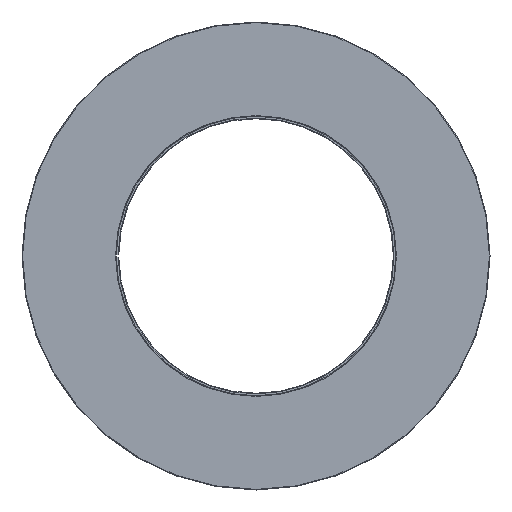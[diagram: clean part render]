
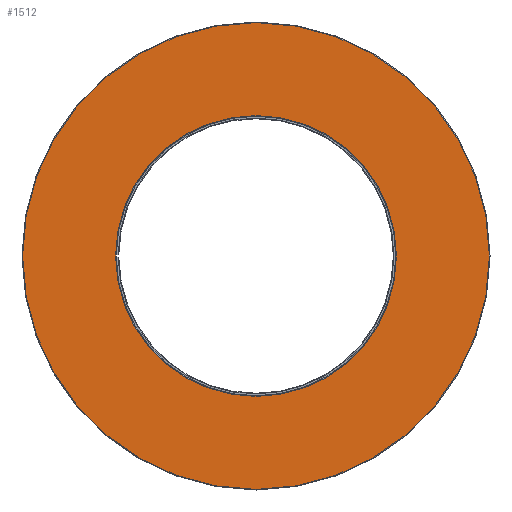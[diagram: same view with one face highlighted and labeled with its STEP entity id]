
A CAD part, left-side view. The second image highlights one B-rep face of the part: STEP entity #1512.
In plain terms, the highlighted planar face has unit normal (-1, 0, 0).
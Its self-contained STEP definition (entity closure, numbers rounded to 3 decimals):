
#1512 = ADVANCED_FACE( '', ( #3846, #3847 ), #3848, .T. );
#3846 = FACE_OUTER_BOUND( '', #7660, .T. );
#3847 = FACE_BOUND( '', #7661, .T. );
#3848 = PLANE( '', #7662 );
#7660 = EDGE_LOOP( '', ( #12437 ) );
#7661 = EDGE_LOOP( '', ( #12438 ) );
#7662 = AXIS2_PLACEMENT_3D( '', #12439, #12440, #12441 );
#12437 = ORIENTED_EDGE( '', *, *, #14562, .F. );
#12438 = ORIENTED_EDGE( '', *, *, #14506, .T. );
#12439 = CARTESIAN_POINT( '', ( -192., 299.5, 0. ) );
#12440 = DIRECTION( '', ( -1., 0., 0. ) );
#12441 = DIRECTION( '', ( 0., 0., 1. ) );
#14506 = EDGE_CURVE( '', #14831, #14831, #14832, .T. );
#14562 = EDGE_CURVE( '', #14897, #14897, #14898, .F. );
#14831 = VERTEX_POINT( '', #15199 );
#14832 = CIRCLE( '', #15200, 225. );
#14897 = VERTEX_POINT( '', #15266 );
#14898 = CIRCLE( '', #15267, 374. );
#15199 = CARTESIAN_POINT( '', ( -192., 225., 0. ) );
#15200 = AXIS2_PLACEMENT_3D( '', #15499, #15500, #15501 );
#15266 = CARTESIAN_POINT( '', ( -192., 0., 374. ) );
#15267 = AXIS2_PLACEMENT_3D( '', #15530, #15531, #15532 );
#15499 = CARTESIAN_POINT( '', ( -192., 0., 0. ) );
#15500 = DIRECTION( '', ( 1., 0., 0. ) );
#15501 = DIRECTION( '', ( 0., 1., 0. ) );
#15530 = CARTESIAN_POINT( '', ( -192., 0., 0. ) );
#15531 = DIRECTION( '', ( -1., 0., 0. ) );
#15532 = DIRECTION( '', ( 0., 0., 1. ) );
